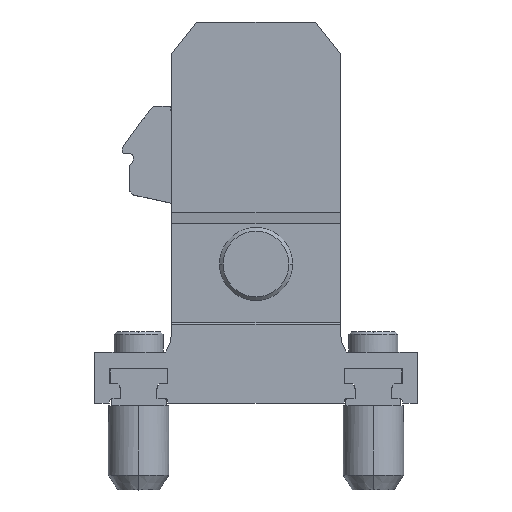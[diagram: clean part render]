
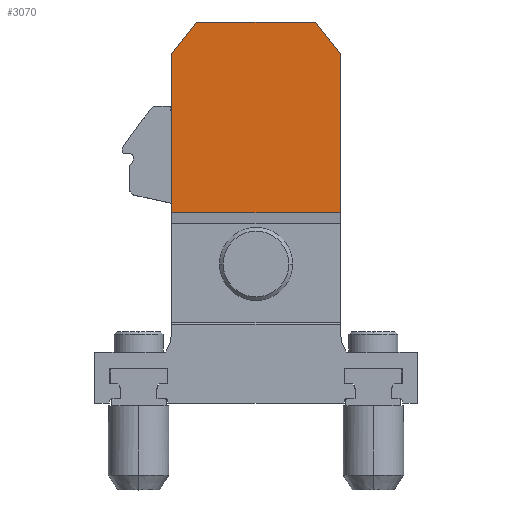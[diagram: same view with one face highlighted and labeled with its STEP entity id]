
A CAD part, top view. The second image highlights one B-rep face of the part: STEP entity #3070.
In plain terms, the highlighted planar face has unit normal (0, 0, 1).
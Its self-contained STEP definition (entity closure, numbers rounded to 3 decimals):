
#52 = EDGE_LOOP ( 'NONE', ( #2429, #4099, #1253, #1081, #1301, #102 ) ) ;
#102 = ORIENTED_EDGE ( 'NONE', *, *, #2224, .T. ) ;
#127 = LINE ( 'NONE', #1251, #4794 ) ;
#174 = EDGE_CURVE ( 'NONE', #3347, #1909, #804, .T. ) ;
#431 = VECTOR ( 'NONE', #1588, 1000. ) ;
#622 = CARTESIAN_POINT ( 'NONE',  ( -8.1, 52., 2.2 ) ) ;
#804 = LINE ( 'NONE', #622, #5436 ) ;
#1081 = ORIENTED_EDGE ( 'NONE', *, *, #5431, .T. ) ;
#1121 = VERTEX_POINT ( 'NONE', #3017 ) ;
#1251 = CARTESIAN_POINT ( 'NONE',  ( 11.5, 47.648, 2.2 ) ) ;
#1253 = ORIENTED_EDGE ( 'NONE', *, *, #5312, .T. ) ;
#1274 = DIRECTION ( 'NONE',  ( 0., 1., 0. ) ) ;
#1301 = ORIENTED_EDGE ( 'NONE', *, *, #174, .T. ) ;
#1375 = LINE ( 'NONE', #4327, #4767 ) ;
#1588 = DIRECTION ( 'NONE',  ( 0., -1., 0. ) ) ;
#1703 = DIRECTION ( 'NONE',  ( -0.616, 0.788, 0. ) ) ;
#1909 = VERTEX_POINT ( 'NONE', #3584 ) ;
#2021 = VECTOR ( 'NONE', #2041, 1000. ) ;
#2041 = DIRECTION ( 'NONE',  ( -1., 0., 0. ) ) ;
#2073 = PLANE ( 'NONE',  #3118 ) ;
#2094 = DIRECTION ( 'NONE',  ( 0., 1., 0. ) ) ;
#2216 = CARTESIAN_POINT ( 'NONE',  ( 11.5, 47.648, 2.2 ) ) ;
#2224 = EDGE_CURVE ( 'NONE', #1909, #5724, #5218, .T. ) ;
#2256 = CARTESIAN_POINT ( 'NONE',  ( -8.1, 52., 2.2 ) ) ;
#2429 = ORIENTED_EDGE ( 'NONE', *, *, #5797, .F. ) ;
#2869 = CARTESIAN_POINT ( 'NONE',  ( -11.5, 26., 2.2 ) ) ;
#3017 = CARTESIAN_POINT ( 'NONE',  ( 11.5, 26., 2.2 ) ) ;
#3057 = VECTOR ( 'NONE', #4837, 1000. ) ;
#3070 = ADVANCED_FACE ( 'NONE', ( #4726 ), #2073, .T. ) ;
#3118 = AXIS2_PLACEMENT_3D ( 'NONE', #3842, #4690, #2094 ) ;
#3198 = LINE ( 'NONE', #2256, #3057 ) ;
#3252 = EDGE_CURVE ( 'NONE', #1121, #4305, #127, .T. ) ;
#3325 = LINE ( 'NONE', #5098, #2021 ) ;
#3347 = VERTEX_POINT ( 'NONE', #5341 ) ;
#3584 = CARTESIAN_POINT ( 'NONE',  ( -11.5, 47.648, 2.2 ) ) ;
#3783 = DIRECTION ( 'NONE',  ( -0.616, -0.788, 0. ) ) ;
#3842 = CARTESIAN_POINT ( 'NONE',  ( -39.001, 52., 2.2 ) ) ;
#4099 = ORIENTED_EDGE ( 'NONE', *, *, #3252, .T. ) ;
#4305 = VERTEX_POINT ( 'NONE', #2216 ) ;
#4327 = CARTESIAN_POINT ( 'NONE',  ( 8.1, 52., 2.2 ) ) ;
#4690 = DIRECTION ( 'NONE',  ( 0., 0., 1. ) ) ;
#4726 = FACE_OUTER_BOUND ( 'NONE', #52, .T. ) ;
#4757 = CARTESIAN_POINT ( 'NONE',  ( 8.1, 52., 2.2 ) ) ;
#4767 = VECTOR ( 'NONE', #1703, 1000. ) ;
#4794 = VECTOR ( 'NONE', #1274, 1000. ) ;
#4837 = DIRECTION ( 'NONE',  ( -1., 0., 0. ) ) ;
#5089 = CARTESIAN_POINT ( 'NONE',  ( -11.5, 47.648, 2.2 ) ) ;
#5098 = CARTESIAN_POINT ( 'NONE',  ( 26.701, 26., 2.2 ) ) ;
#5218 = LINE ( 'NONE', #5089, #431 ) ;
#5312 = EDGE_CURVE ( 'NONE', #4305, #5319, #1375, .T. ) ;
#5319 = VERTEX_POINT ( 'NONE', #4757 ) ;
#5341 = CARTESIAN_POINT ( 'NONE',  ( -8.1, 52., 2.2 ) ) ;
#5431 = EDGE_CURVE ( 'NONE', #5319, #3347, #3198, .T. ) ;
#5436 = VECTOR ( 'NONE', #3783, 1000. ) ;
#5724 = VERTEX_POINT ( 'NONE', #2869 ) ;
#5797 = EDGE_CURVE ( 'NONE', #1121, #5724, #3325, .T. ) ;
